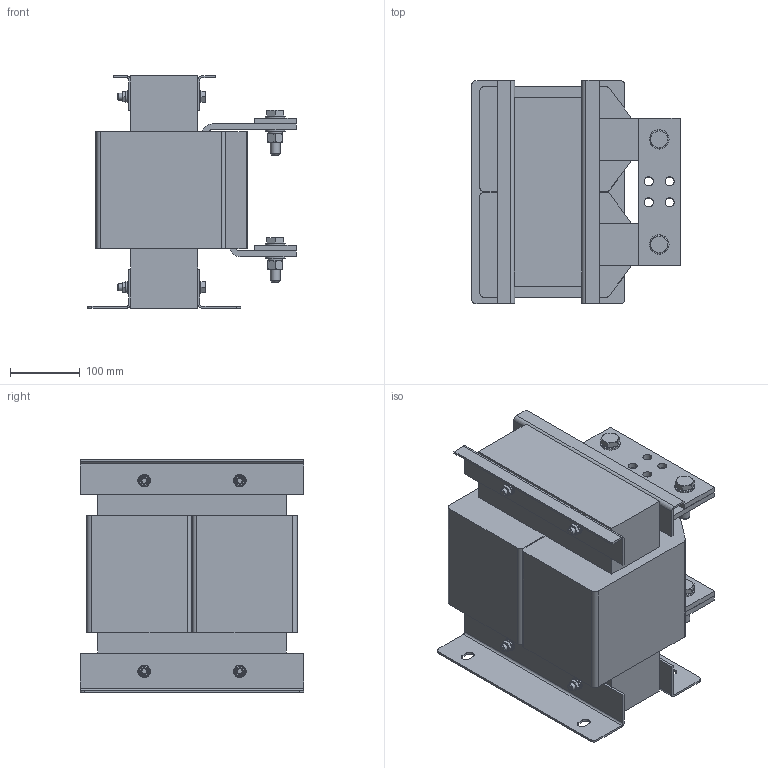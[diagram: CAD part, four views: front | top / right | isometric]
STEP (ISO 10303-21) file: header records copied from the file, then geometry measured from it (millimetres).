
FILE_DESCRIPTION(('STEP AP203'), '1');
FILE_NAME('DC-630-04 _ Äðîññåëü ïîñòîÿííîãî òîêà', '', ('UNSPECIFIED'), ('UNSPECIFIED'), 'C3D Converter', 'C3D Toolkit', '');
FILE_SCHEMA(('CONFIG_CONTROL_DESIGN'));
Length unit declared in the file: millimetre
Products named in the file (9): DC-630-04
Assembly tree (40 placements, depth 2):
  DC-630-04
    (unnamed)  x8
    (unnamed)  x4
    (unnamed)  x4
    (unnamed)  x4
    (unnamed)  x8
    (unnamed)  x4
    (unnamed)  x4
    (unnamed)  x4
Bounding box: 298.5 x 320 x 333 mm (x, y, z)
Volume: 15558453.4 mm3; surface area: 911932.9 mm2
Topology: 47 solids, 47 shells, 536 faces, 1184 edges, 752 vertices
Faces by surface type: plane 324, cylinder 136, cone 68, torus 8
Full cylindrical faces by diameter (mm): 8.376 x4, 10 x4, 10.5 x8, 11 x12, 11.835 x4, 13 x8, 14 x8, 15 x12, 18 x8, 24 x4, 28 x8
Entity records: 11666 total; most frequent: CARTESIAN_POINT 3039, DIRECTION 1292, ORIENTED_EDGE 1140, EDGE_CURVE 570, AXIS2_PLACEMENT_3D 479, VERTEX_POINT 402, EDGE_LOOP 380, LINE 334
